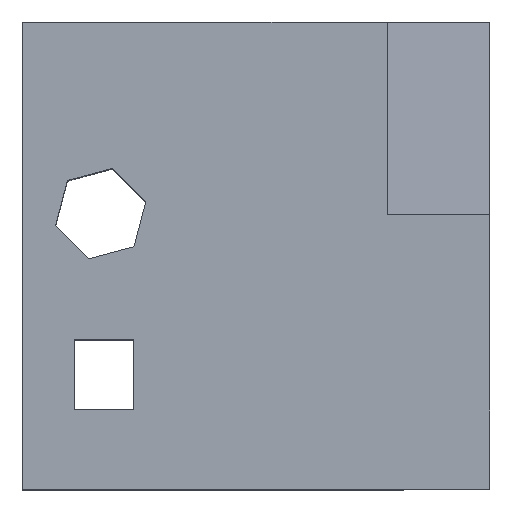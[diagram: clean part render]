
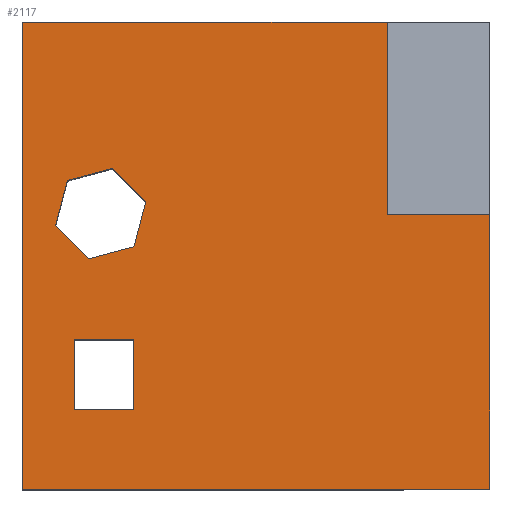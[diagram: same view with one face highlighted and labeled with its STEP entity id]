
A CAD part, top view. The second image highlights one B-rep face of the part: STEP entity #2117.
In plain terms, the highlighted planar face has unit normal (0, 0, 1).
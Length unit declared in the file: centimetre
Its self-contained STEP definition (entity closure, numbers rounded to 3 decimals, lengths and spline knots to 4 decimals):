
#10 = VECTOR ( 'NONE', #1679, 100. ) ;
#13 = CARTESIAN_POINT ( 'NONE',  ( 193.354, 686.8731, 1000. ) ) ;
#57 = EDGE_LOOP ( 'NONE', ( #1542, #437, #2066, #1603, #180, #2533 ) ) ;
#98 = VECTOR ( 'NONE', #231, 100. ) ;
#132 = VECTOR ( 'NONE', #1604, 100. ) ;
#136 = EDGE_CURVE ( 'NONE', #2298, #1280, #1360, .T. ) ;
#170 = DIRECTION ( 'NONE',  ( -0.707, 0.707, 0. ) ) ;
#176 = LINE ( 'NONE', #821, #2074 ) ;
#180 = ORIENTED_EDGE ( 'NONE', *, *, #2344, .T. ) ;
#231 = DIRECTION ( 'NONE',  ( 0., -1., 0. ) ) ;
#256 = CARTESIAN_POINT ( 'NONE',  ( 264.3658, 615.8613, 1000. ) ) ;
#336 = DIRECTION ( 'NONE',  ( 0.965, 0.261, 0. ) ) ;
#357 = EDGE_CURVE ( 'NONE', #2571, #1610, #176, .T. ) ;
#365 = CARTESIAN_POINT ( 'NONE',  ( 780.9918, 587.8794, 1000. ) ) ;
#380 = LINE ( 'NONE', #2070, #488 ) ;
#391 = EDGE_CURVE ( 'NONE', #2368, #2681, #1939, .T. ) ;
#405 = CARTESIAN_POINT ( 'NONE',  ( 70.8279, 563.7512, 1000. ) ) ;
#418 = CARTESIAN_POINT ( 'NONE',  ( 238.4978, 320.0166, 1000. ) ) ;
#437 = ORIENTED_EDGE ( 'NONE', *, *, #2209, .T. ) ;
#438 = LINE ( 'NONE', #1964, #1025 ) ;
#453 = DIRECTION ( 'NONE',  ( 1., 0., 0. ) ) ;
#477 = DIRECTION ( 'NONE',  ( 0., 1., 0. ) ) ;
#479 = FACE_BOUND ( 'NONE', #1586, .T. ) ;
#488 = VECTOR ( 'NONE', #170, 100. ) ;
#524 = DIRECTION ( 'NONE',  ( 1., 0., 0. ) ) ;
#527 = CARTESIAN_POINT ( 'NONE',  ( 110.7155, 170.7594, 1000. ) ) ;
#556 = VERTEX_POINT ( 'NONE', #1629 ) ;
#572 = VECTOR ( 'NONE', #477, 100. ) ;
#599 = LINE ( 'NONE', #2299, #2352 ) ;
#644 = ORIENTED_EDGE ( 'NONE', *, *, #1894, .T. ) ;
#656 = LINE ( 'NONE', #13, #1553 ) ;
#685 = EDGE_CURVE ( 'NONE', #2471, #556, #438, .T. ) ;
#686 = CARTESIAN_POINT ( 'NONE',  ( 1000., 1000., 1000. ) ) ;
#693 = CARTESIAN_POINT ( 'NONE',  ( 780.9918, 587.8794, 1000. ) ) ;
#700 = EDGE_CURVE ( 'NONE', #738, #2024, #2129, .T. ) ;
#722 = VECTOR ( 'NONE', #1207, 100. ) ;
#726 = ORIENTED_EDGE ( 'NONE', *, *, #1846, .F. ) ;
#735 = CARTESIAN_POINT ( 'NONE',  ( 238.4978, 170.7594, 1000. ) ) ;
#738 = VERTEX_POINT ( 'NONE', #256 ) ;
#763 = ORIENTED_EDGE ( 'NONE', *, *, #357, .T. ) ;
#764 = CARTESIAN_POINT ( 'NONE',  ( 110.7155, 170.7594, 1000. ) ) ;
#790 = ORIENTED_EDGE ( 'NONE', *, *, #2240, .T. ) ;
#794 = CARTESIAN_POINT ( 'NONE',  ( 1000., 587.8794, 1000. ) ) ;
#821 = CARTESIAN_POINT ( 'NONE',  ( 110.7155, 170.7594, 1000. ) ) ;
#840 = VECTOR ( 'NONE', #891, 100. ) ;
#855 = ORIENTED_EDGE ( 'NONE', *, *, #1046, .T. ) ;
#857 = DIRECTION ( 'NONE',  ( 0.707, -0.707, 0. ) ) ;
#870 = LINE ( 'NONE', #2349, #10 ) ;
#891 = DIRECTION ( 'NONE',  ( 0., 1., 0. ) ) ;
#976 = CARTESIAN_POINT ( 'NONE',  ( 110.7155, 320.0166, 1000. ) ) ;
#984 = ORIENTED_EDGE ( 'NONE', *, *, #2496, .T. ) ;
#1024 = LINE ( 'NONE', #2056, #1995 ) ;
#1025 = VECTOR ( 'NONE', #2547, 100. ) ;
#1026 = CARTESIAN_POINT ( 'NONE',  ( 238.7806, 518.9665, 1000. ) ) ;
#1046 = EDGE_CURVE ( 'NONE', #2003, #2714, #1944, .T. ) ;
#1088 = LINE ( 'NONE', #2131, #98 ) ;
#1156 = VERTEX_POINT ( 'NONE', #1602 ) ;
#1207 = DIRECTION ( 'NONE',  ( 0., -1., 0. ) ) ;
#1220 = DIRECTION ( 'NONE',  ( -0.965, -0.261, 0. ) ) ;
#1238 = CARTESIAN_POINT ( 'NONE',  ( 780.9918, 1000., 1000. ) ) ;
#1263 = EDGE_CURVE ( 'NONE', #2681, #2167, #599, .T. ) ;
#1280 = VERTEX_POINT ( 'NONE', #418 ) ;
#1305 = DIRECTION ( 'NONE',  ( -0.255, -0.967, 0. ) ) ;
#1335 = AXIS2_PLACEMENT_3D ( 'NONE', #1708, #2556, #453 ) ;
#1360 = LINE ( 'NONE', #2202, #1911 ) ;
#1384 = LINE ( 'NONE', #764, #132 ) ;
#1451 = VERTEX_POINT ( 'NONE', #2258 ) ;
#1472 = PLANE ( 'NONE',  #1335 ) ;
#1524 = CARTESIAN_POINT ( 'NONE',  ( 0., 0., 1000. ) ) ;
#1526 = ORIENTED_EDGE ( 'NONE', *, *, #1263, .T. ) ;
#1531 = CARTESIAN_POINT ( 'NONE',  ( 264.3658, 615.8613, 1000. ) ) ;
#1542 = ORIENTED_EDGE ( 'NONE', *, *, #685, .T. ) ;
#1553 = VECTOR ( 'NONE', #857, 100. ) ;
#1586 = EDGE_LOOP ( 'NONE', ( #790, #1601, #2328, #763 ) ) ;
#1601 = ORIENTED_EDGE ( 'NONE', *, *, #136, .T. ) ;
#1602 = CARTESIAN_POINT ( 'NONE',  ( 141.8397, 492.7394, 1000. ) ) ;
#1603 = ORIENTED_EDGE ( 'NONE', *, *, #700, .T. ) ;
#1604 = DIRECTION ( 'NONE',  ( 0., 1., 0. ) ) ;
#1610 = VERTEX_POINT ( 'NONE', #527 ) ;
#1625 = CARTESIAN_POINT ( 'NONE',  ( 0., 1000., 1000. ) ) ;
#1629 = CARTESIAN_POINT ( 'NONE',  ( 96.413, 660.646, 1000. ) ) ;
#1679 = DIRECTION ( 'NONE',  ( 1., 0., 0. ) ) ;
#1681 = CARTESIAN_POINT ( 'NONE',  ( 1000., 0., 1000. ) ) ;
#1708 = CARTESIAN_POINT ( 'NONE',  ( 0., 0., 1000. ) ) ;
#1785 = EDGE_CURVE ( 'NONE', #1280, #2571, #1088, .T. ) ;
#1846 = EDGE_CURVE ( 'NONE', #2368, #2714, #870, .T. ) ;
#1847 = EDGE_CURVE ( 'NONE', #2551, #738, #656, .T. ) ;
#1894 = EDGE_CURVE ( 'NONE', #2167, #1451, #2084, .T. ) ;
#1911 = VECTOR ( 'NONE', #524, 100. ) ;
#1912 = DIRECTION ( 'NONE',  ( -1., 0., 0. ) ) ;
#1915 = DIRECTION ( 'NONE',  ( -1., 0., 0. ) ) ;
#1939 = LINE ( 'NONE', #693, #840 ) ;
#1944 = LINE ( 'NONE', #686, #572 ) ;
#1946 = FACE_BOUND ( 'NONE', #57, .T. ) ;
#1964 = CARTESIAN_POINT ( 'NONE',  ( 70.8279, 563.7512, 1000. ) ) ;
#1995 = VECTOR ( 'NONE', #1220, 100. ) ;
#2003 = VERTEX_POINT ( 'NONE', #1681 ) ;
#2020 = EDGE_CURVE ( 'NONE', #1156, #2471, #380, .T. ) ;
#2024 = VERTEX_POINT ( 'NONE', #1026 ) ;
#2056 = CARTESIAN_POINT ( 'NONE',  ( 238.7806, 518.9665, 1000. ) ) ;
#2066 = ORIENTED_EDGE ( 'NONE', *, *, #1847, .T. ) ;
#2070 = CARTESIAN_POINT ( 'NONE',  ( 141.8397, 492.7394, 1000. ) ) ;
#2074 = VECTOR ( 'NONE', #1912, 100. ) ;
#2084 = LINE ( 'NONE', #1625, #722 ) ;
#2117 = ADVANCED_FACE ( 'NONE', ( #1946, #2380, #479 ), #1472, .T. ) ;
#2129 = LINE ( 'NONE', #1531, #2250 ) ;
#2131 = CARTESIAN_POINT ( 'NONE',  ( 238.4978, 170.7594, 1000. ) ) ;
#2160 = DIRECTION ( 'NONE',  ( 1., 0., 0. ) ) ;
#2167 = VERTEX_POINT ( 'NONE', #2334 ) ;
#2202 = CARTESIAN_POINT ( 'NONE',  ( 110.7155, 320.0166, 1000. ) ) ;
#2209 = EDGE_CURVE ( 'NONE', #556, #2551, #2239, .T. ) ;
#2239 = LINE ( 'NONE', #2391, #2394 ) ;
#2240 = EDGE_CURVE ( 'NONE', #1610, #2298, #1384, .T. ) ;
#2250 = VECTOR ( 'NONE', #1305, 100. ) ;
#2258 = CARTESIAN_POINT ( 'NONE',  ( 0., 0., 1000. ) ) ;
#2261 = EDGE_LOOP ( 'NONE', ( #2382, #1526, #644, #984, #855, #726 ) ) ;
#2298 = VERTEX_POINT ( 'NONE', #976 ) ;
#2299 = CARTESIAN_POINT ( 'NONE',  ( 0., 1000., 1000. ) ) ;
#2328 = ORIENTED_EDGE ( 'NONE', *, *, #1785, .T. ) ;
#2334 = CARTESIAN_POINT ( 'NONE',  ( 0., 1000., 1000. ) ) ;
#2344 = EDGE_CURVE ( 'NONE', #2024, #1156, #1024, .T. ) ;
#2349 = CARTESIAN_POINT ( 'NONE',  ( 780.9918, 587.8794, 1000. ) ) ;
#2352 = VECTOR ( 'NONE', #1915, 100. ) ;
#2368 = VERTEX_POINT ( 'NONE', #365 ) ;
#2380 = FACE_OUTER_BOUND ( 'NONE', #2261, .T. ) ;
#2382 = ORIENTED_EDGE ( 'NONE', *, *, #391, .T. ) ;
#2391 = CARTESIAN_POINT ( 'NONE',  ( 96.413, 660.646, 1000. ) ) ;
#2394 = VECTOR ( 'NONE', #336, 100. ) ;
#2442 = VECTOR ( 'NONE', #2160, 100. ) ;
#2471 = VERTEX_POINT ( 'NONE', #405 ) ;
#2496 = EDGE_CURVE ( 'NONE', #1451, #2003, #2527, .T. ) ;
#2527 = LINE ( 'NONE', #1524, #2442 ) ;
#2533 = ORIENTED_EDGE ( 'NONE', *, *, #2020, .T. ) ;
#2547 = DIRECTION ( 'NONE',  ( 0.255, 0.967, 0. ) ) ;
#2551 = VERTEX_POINT ( 'NONE', #2635 ) ;
#2556 = DIRECTION ( 'NONE',  ( 0., 0., 1. ) ) ;
#2571 = VERTEX_POINT ( 'NONE', #735 ) ;
#2635 = CARTESIAN_POINT ( 'NONE',  ( 193.354, 686.8731, 1000. ) ) ;
#2681 = VERTEX_POINT ( 'NONE', #1238 ) ;
#2714 = VERTEX_POINT ( 'NONE', #794 ) ;
